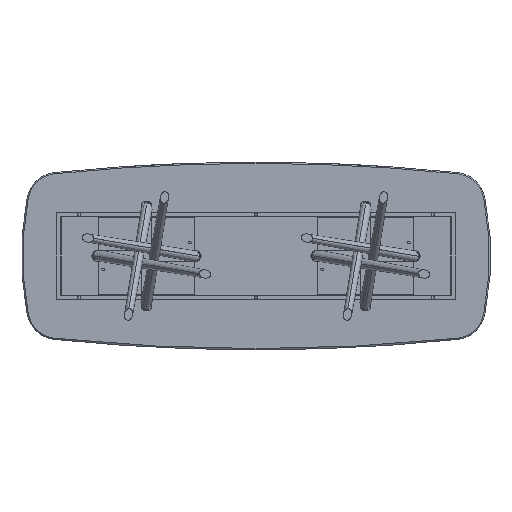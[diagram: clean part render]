
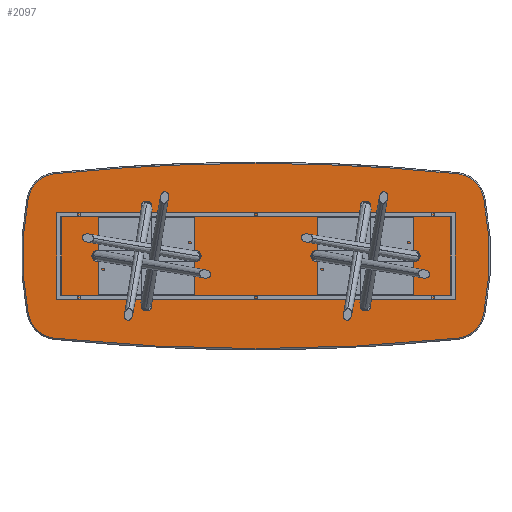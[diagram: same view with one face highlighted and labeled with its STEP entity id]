
A CAD part, front view. The second image highlights one B-rep face of the part: STEP entity #2097.
In plain terms, the highlighted planar face has unit normal (0, -1, 0).
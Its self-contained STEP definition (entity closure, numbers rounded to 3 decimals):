
#50 = CARTESIAN_POINT ( 'NONE',  ( 0., 0., -11900. ) ) ;
#556 = AXIS2_PLACEMENT_3D ( 'NONE', #613, #9546, #1802 ) ;
#561 = VERTEX_POINT ( 'NONE', #6827 ) ;
#613 = CARTESIAN_POINT ( 'NONE',  ( 400., 0., 0. ) ) ;
#644 = ORIENTED_EDGE ( 'NONE', *, *, #7992, .T. ) ;
#753 = ORIENTED_EDGE ( 'NONE', *, *, #13252, .T. ) ;
#850 = EDGE_CURVE ( 'NONE', #12829, #561, #5913, .T. ) ;
#984 = EDGE_CURVE ( 'NONE', #6600, #7293, #9786, .T. ) ;
#1398 = ORIENTED_EDGE ( 'NONE', *, *, #12948, .T. ) ;
#1400 = DIRECTION ( 'NONE',  ( 0., 0., 1. ) ) ;
#1545 = VERTEX_POINT ( 'NONE', #14668 ) ;
#1802 = DIRECTION ( 'NONE',  ( 0., 0., 1. ) ) ;
#2097 = ADVANCED_FACE ( 'NONE', ( #4627 ), #15440, .F. ) ;
#2570 = EDGE_CURVE ( 'NONE', #1545, #6600, #8021, .T. ) ;
#3205 = CARTESIAN_POINT ( 'NONE',  ( 0., 0., 592. ) ) ;
#3669 = DIRECTION ( 'NONE',  ( 0., 0., 1. ) ) ;
#4044 = CARTESIAN_POINT ( 'NONE',  ( 0., 0., 11900. ) ) ;
#4104 = AXIS2_PLACEMENT_3D ( 'NONE', #11068, #12444, #1400 ) ;
#4182 = CIRCLE ( 'NONE', #10627, 192. ) ;
#4234 = AXIS2_PLACEMENT_3D ( 'NONE', #50, #7472, #3669 ) ;
#4323 = DIRECTION ( 'NONE',  ( 0., 0., 1. ) ) ;
#4343 = CARTESIAN_POINT ( 'NONE',  ( -1266.747, 0., 334.597 ) ) ;
#4467 = EDGE_CURVE ( 'NONE', #561, #9697, #5867, .T. ) ;
#4627 = FACE_OUTER_BOUND ( 'NONE', #5744, .T. ) ;
#4843 = DIRECTION ( 'NONE',  ( 0., 0., 1. ) ) ;
#5228 = CIRCLE ( 'NONE', #15249, 192. ) ;
#5728 = ORIENTED_EDGE ( 'NONE', *, *, #2570, .T. ) ;
#5744 = EDGE_LOOP ( 'NONE', ( #11785, #644, #5784, #14384, #1398, #15536, #10432, #753, #5728 ) ) ;
#5784 = ORIENTED_EDGE ( 'NONE', *, *, #850, .T. ) ;
#5819 = CARTESIAN_POINT ( 'NONE',  ( -1286.52, 0., 525.576 ) ) ;
#5867 = CIRCLE ( 'NONE', #14354, 1892. ) ;
#5913 = CIRCLE ( 'NONE', #6690, 192. ) ;
#5991 = CARTESIAN_POINT ( 'NONE',  ( -400., 0., 0. ) ) ;
#6183 = CARTESIAN_POINT ( 'NONE',  ( -1286.52, 0., -525.576 ) ) ;
#6212 = AXIS2_PLACEMENT_3D ( 'NONE', #14246, #9567, #4323 ) ;
#6380 = DIRECTION ( 'NONE',  ( 0., 0., 1. ) ) ;
#6600 = VERTEX_POINT ( 'NONE', #10187 ) ;
#6690 = AXIS2_PLACEMENT_3D ( 'NONE', #10537, #12115, #14161 ) ;
#6827 = CARTESIAN_POINT ( 'NONE',  ( 1454.991, 0., -372.386 ) ) ;
#7293 = VERTEX_POINT ( 'NONE', #6183 ) ;
#7434 = DIRECTION ( 'NONE',  ( 0., -1., 0. ) ) ;
#7472 = DIRECTION ( 'NONE',  ( 0., -1., 0. ) ) ;
#7992 = EDGE_CURVE ( 'NONE', #7293, #12829, #8495, .T. ) ;
#8021 = CIRCLE ( 'NONE', #556, 1892. ) ;
#8239 = VERTEX_POINT ( 'NONE', #8406 ) ;
#8406 = CARTESIAN_POINT ( 'NONE',  ( 1286.52, 0., 525.576 ) ) ;
#8495 = CIRCLE ( 'NONE', #12616, 12492. ) ;
#8955 = CARTESIAN_POINT ( 'NONE',  ( 1454.991, 0., 372.386 ) ) ;
#8981 = DIRECTION ( 'NONE',  ( 0., -1., 0. ) ) ;
#9110 = CARTESIAN_POINT ( 'NONE',  ( 0., 0., -11900. ) ) ;
#9316 = CIRCLE ( 'NONE', #10088, 12492. ) ;
#9546 = DIRECTION ( 'NONE',  ( 0., -1., 0. ) ) ;
#9567 = DIRECTION ( 'NONE',  ( 0., 1., 0. ) ) ;
#9697 = VERTEX_POINT ( 'NONE', #8955 ) ;
#9711 = EDGE_CURVE ( 'NONE', #10835, #10509, #9316, .T. ) ;
#9786 = CIRCLE ( 'NONE', #4104, 192. ) ;
#10088 = AXIS2_PLACEMENT_3D ( 'NONE', #9110, #13793, #6380 ) ;
#10174 = DIRECTION ( 'NONE',  ( 0., -1., 0. ) ) ;
#10187 = CARTESIAN_POINT ( 'NONE',  ( -1454.991, 0., -372.386 ) ) ;
#10432 = ORIENTED_EDGE ( 'NONE', *, *, #9711, .T. ) ;
#10509 = VERTEX_POINT ( 'NONE', #5819 ) ;
#10537 = CARTESIAN_POINT ( 'NONE',  ( 1266.747, 0., -334.597 ) ) ;
#10627 = AXIS2_PLACEMENT_3D ( 'NONE', #12841, #15333, #15166 ) ;
#10835 = VERTEX_POINT ( 'NONE', #3205 ) ;
#11068 = CARTESIAN_POINT ( 'NONE',  ( -1266.747, 0., -334.597 ) ) ;
#11785 = ORIENTED_EDGE ( 'NONE', *, *, #984, .T. ) ;
#12115 = DIRECTION ( 'NONE',  ( 0., -1., 0. ) ) ;
#12444 = DIRECTION ( 'NONE',  ( 0., -1., 0. ) ) ;
#12616 = AXIS2_PLACEMENT_3D ( 'NONE', #4044, #8981, #13896 ) ;
#12829 = VERTEX_POINT ( 'NONE', #15092 ) ;
#12841 = CARTESIAN_POINT ( 'NONE',  ( 1266.747, 0., 334.597 ) ) ;
#12948 = EDGE_CURVE ( 'NONE', #9697, #8239, #4182, .T. ) ;
#13252 = EDGE_CURVE ( 'NONE', #10509, #1545, #5228, .T. ) ;
#13793 = DIRECTION ( 'NONE',  ( 0., -1., 0. ) ) ;
#13896 = DIRECTION ( 'NONE',  ( 0., 0., 1. ) ) ;
#14161 = DIRECTION ( 'NONE',  ( 0., 0., 1. ) ) ;
#14246 = CARTESIAN_POINT ( 'NONE',  ( -200., 0., 5950. ) ) ;
#14293 = CIRCLE ( 'NONE', #4234, 12492. ) ;
#14354 = AXIS2_PLACEMENT_3D ( 'NONE', #5991, #7434, #4843 ) ;
#14384 = ORIENTED_EDGE ( 'NONE', *, *, #4467, .T. ) ;
#14668 = CARTESIAN_POINT ( 'NONE',  ( -1454.991, 0., 372.386 ) ) ;
#15071 = DIRECTION ( 'NONE',  ( 0., 0., 1. ) ) ;
#15092 = CARTESIAN_POINT ( 'NONE',  ( 1286.52, 0., -525.576 ) ) ;
#15166 = DIRECTION ( 'NONE',  ( 0., 0., 1. ) ) ;
#15249 = AXIS2_PLACEMENT_3D ( 'NONE', #4343, #10174, #15071 ) ;
#15333 = DIRECTION ( 'NONE',  ( 0., -1., 0. ) ) ;
#15440 = PLANE ( 'NONE',  #6212 ) ;
#15536 = ORIENTED_EDGE ( 'NONE', *, *, #15564, .T. ) ;
#15564 = EDGE_CURVE ( 'NONE', #8239, #10835, #14293, .T. ) ;
